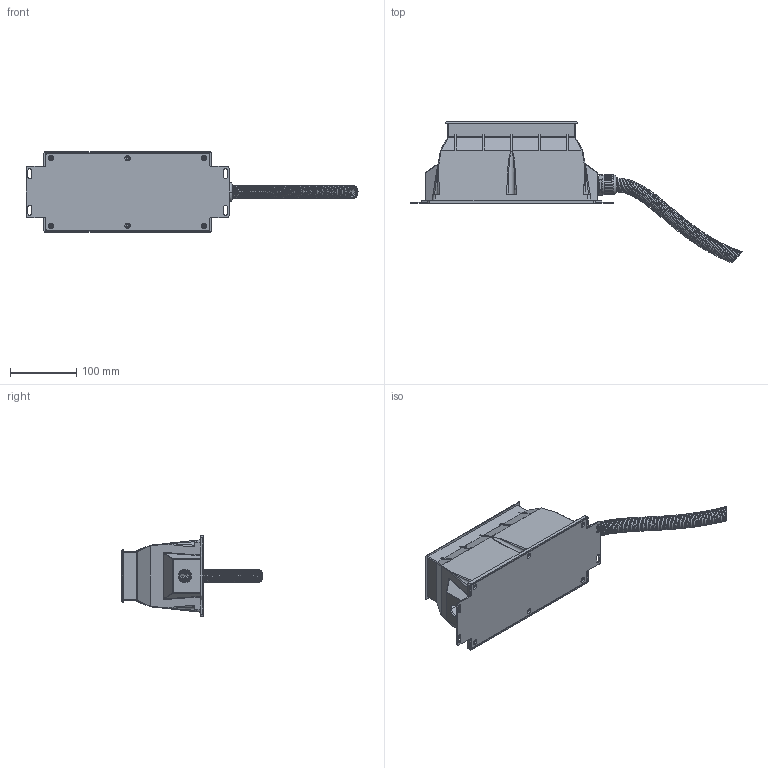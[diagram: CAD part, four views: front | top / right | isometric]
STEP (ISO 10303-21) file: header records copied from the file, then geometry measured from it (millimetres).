
FILE_DESCRIPTION((''),'2;1');
FILE_NAME('4QA-03_ASM','2020-11-04T',('Administrator'),(''),'CREO PARAMETRIC BY PTC INC, 2015200','CREO PARAMETRIC BY PTC INC, 2015200','');
FILE_SCHEMA(('CONFIG_CONTROL_DESIGN'));
Products named in the file (22): MIANGAI_178_1; CHUGUANGZHAO_173_1; HOUSING-DIE_187_1; SANREKUAI_162_1; PACKING-SILICON_125_1; 4P-1_ASM_168_ASM_1_ASM; 4PA-1-1_ASM; PG11; 4QA-GUANGYUANGBAN; ZHIZI_65; 2FL-03-2020-11-3; 4QA-JIEGUANGMAO; 4QA-03-2020-11-2; M4-24_1; 4QA-03-BIBAN; _S__25______ANY; _S__29______ANY; _S__27______ANY; _S__26______ANY; PRODUCT_62766_ANY_ASM; ____-2020-10-14_ANY; 4QA-03_ASM
Assembly tree (29 placements, depth 4):
  4QA-03_ASM
    4PA-1-1_ASM
      4P-1_ASM_168_ASM_1_ASM
        MIANGAI_178_1
        CHUGUANGZHAO_173_1
        HOUSING-DIE_187_1
        SANREKUAI_162_1
        PACKING-SILICON_125_1
    PG11
    4QA-GUANGYUANGBAN
    ZHIZI_65  x8
    2FL-03-2020-11-3
    4QA-JIEGUANGMAO
    4QA-03-2020-11-2
    M4-24_1  x2
    4QA-03-BIBAN
    PRODUCT_62766_ANY_ASM
      _S__25______ANY
      _S__29______ANY
      _S__27______ANY
      _S__26______ANY
    ____-2020-10-14_ANY
Bounding box: 500.09 x 213.7 x 122 mm (x, y, z)
Volume: 504575.9 mm3; surface area: 471530.5 mm2
Topology: 26 solids, 26 shells, 3208 faces, 8760 edges, 5732 vertices
Faces by surface type: plane 1615, cylinder 1087, cone 190, torus 174, bspline 90, sphere 44, revolution 8
Entity records: 112141 total; most frequent: CARTESIAN_POINT 33279, ORIENTED_EDGE 17006, DIRECTION 15772, EDGE_CURVE 8503, AXIS2_PLACEMENT_3D 5697, VERTEX_POINT 5582, VECTOR 4370, LINE 4370
